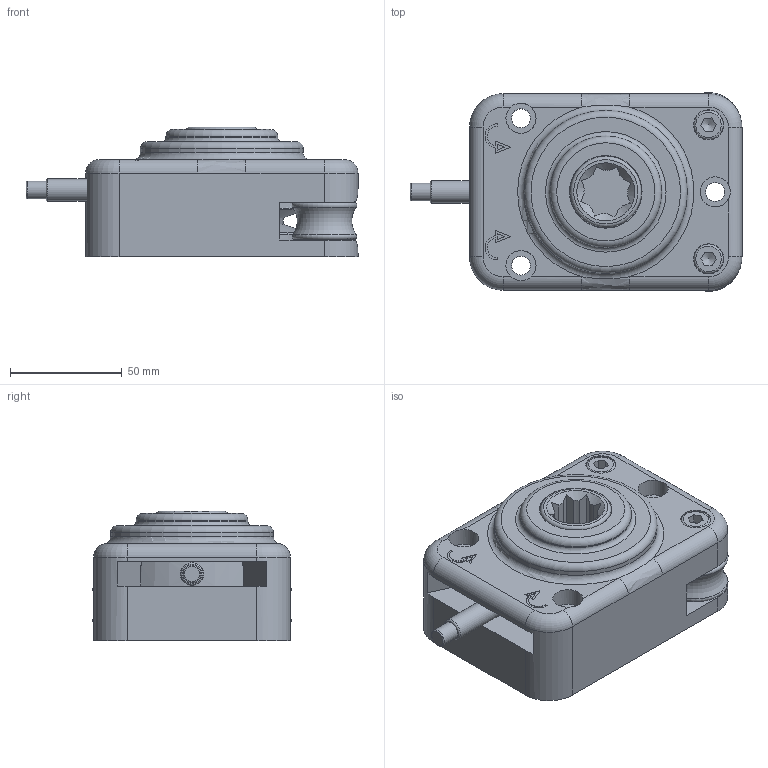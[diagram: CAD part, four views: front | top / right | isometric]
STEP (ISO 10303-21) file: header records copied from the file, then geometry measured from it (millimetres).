
FILE_DESCRIPTION(/* description */ (''),/* implementation_level */ '2;1');
FILE_NAME(/* name */ '\\SERVER2K12\Disegni CAD\Cad Library\3D - STP\Winches\240.010.stp',/* time_stamp */ '2018-04-18T15:30:55+02:00',/* author */ ('gianni'),/* organization */ (''),/* preprocessor_version */ 'ST-DEVELOPER v16.5',/* originating_system */ 'Autodesk Inventor 2017',/* authorisation */ '');
FILE_SCHEMA (('AUTOMOTIVE_DESIGN { 1 0 10303 214 3 1 1 }'));
Length unit declared in the file: millimetre
Products named in the file (1): Line driver manuale
Bounding box: 148.7 x 88.99 x 58 mm (x, y, z)
Volume: 423829 mm3; surface area: 85672.1 mm2
Topology: 1 solids, 5 shells, 213 faces, 524 edges, 336 vertices
Faces by surface type: plane 94, cylinder 63, torus 27, cone 23, bspline 6
Full cylindrical faces by diameter (mm): 6.647 x2, 8 x1, 8.5 x4, 10 x1, 13 x2, 13.5 x5, 13.7 x4, 25.2 x1, 31.8 x1, 31.9 x1, 32.5 x1, 50 x1, 55 x1, 73 x1, 78 x2, 80.15 x1
Entity records: 6274 total; most frequent: CARTESIAN_POINT 1629, DIRECTION 967, ORIENTED_EDGE 864, EDGE_CURVE 432, AXIS2_PLACEMENT_3D 388, EDGE_LOOP 311, VERTEX_POINT 309, FACE_OUTER_BOUND 213
